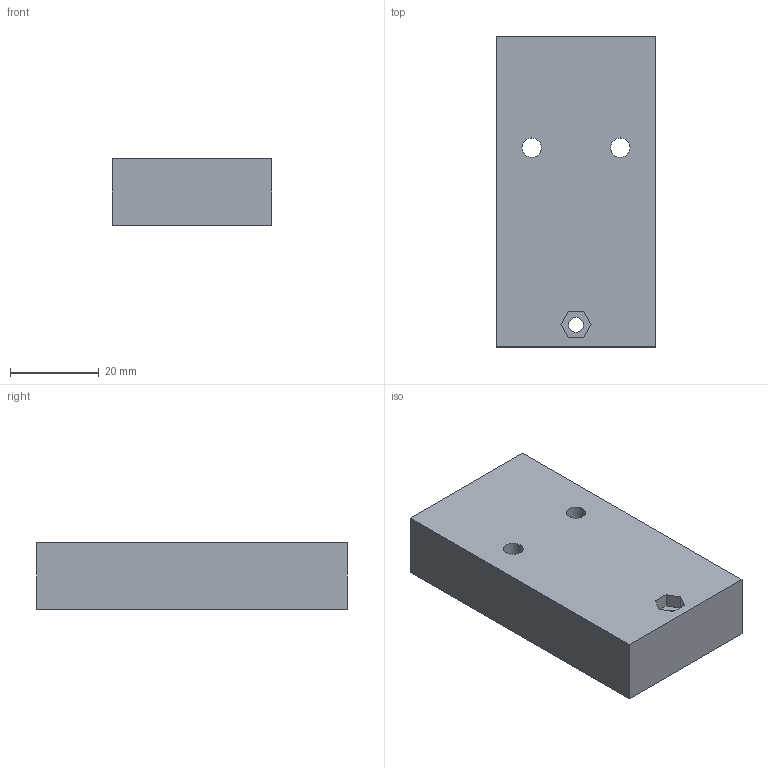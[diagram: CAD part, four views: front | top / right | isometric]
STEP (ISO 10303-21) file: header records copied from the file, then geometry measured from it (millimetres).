
FILE_DESCRIPTION(('Open CASCADE Model'),'2;1');
FILE_NAME('Open CASCADE Shape Model','2026-10-21T12:05:00',('Author'),( 'Open CASCADE'),'Open CASCADE STEP processor 7.9','Open CASCADE 7.9' ,'Unknown');
FILE_SCHEMA(('AUTOMOTIVE_DESIGN { 1 0 10303 214 1 1 1 1 }'));
Length unit declared in the file: millimetre
Products named in the file (1): Open CASCADE STEP translator 7.9 1
Bounding box: 36 x 70 x 15 mm (x, y, z)
Volume: 37142.7 mm3; surface area: 8746.1 mm2
Topology: 1 solids, 1 shells, 16 faces, 39 edges, 26 vertices
Faces by surface type: plane 13, cylinder 3
Full cylindrical faces by diameter (mm): 3.4 x1, 4.4 x2
Entity records: 1016 total; most frequent: CARTESIAN_POINT 196, DIRECTION 151, LINE 105, VECTOR 105, ORIENTED_EDGE 78, PCURVE 78, DEFINITIONAL_REPRESENTATION 78, EDGE_CURVE 39
